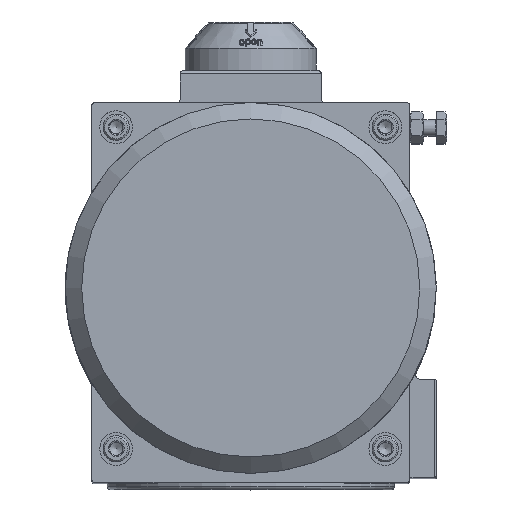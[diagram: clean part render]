
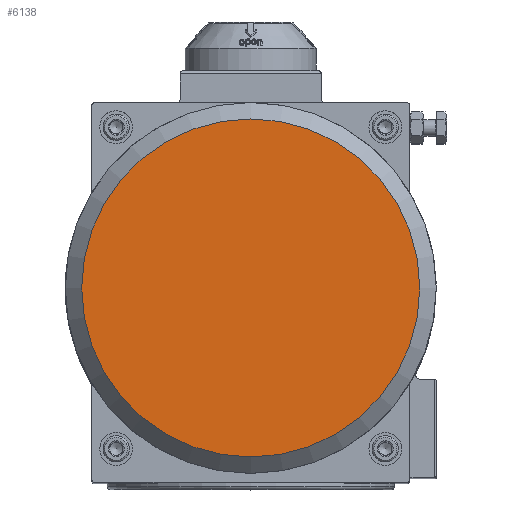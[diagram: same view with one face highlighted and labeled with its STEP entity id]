
A CAD part, top view. The second image highlights one B-rep face of the part: STEP entity #6138.
In plain terms, the highlighted planar face has unit normal (0, 0, 1).
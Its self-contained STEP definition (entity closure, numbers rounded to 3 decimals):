
#6138=ADVANCED_FACE('',(#13647),#13649,.T.);
#13647=FACE_BOUND('',#13648,.T.);
#13648=EDGE_LOOP('',(#20598));
#13649=PLANE('',#13650);
#13650=AXIS2_PLACEMENT_3D('',#13651,#13652,#13653);
#13651=CARTESIAN_POINT('',(0.,0.,266.));
#13652=DIRECTION('',(0.,0.,1.));
#13653=DIRECTION('',(1.,0.,0.));
#20598=ORIENTED_EDGE('',*,*,#23934,.T.);
#23934=EDGE_CURVE('',#27636,#27636,#27637,.T.);
#27636=VERTEX_POINT('',#50400);
#27637=CIRCLE('',#50401,103.);
#50400=CARTESIAN_POINT('',(103.,0.,266.));
#50401=AXIS2_PLACEMENT_3D('',#50402,#50403,#50404);
#50402=CARTESIAN_POINT('',(0.,0.,266.));
#50403=DIRECTION('',(0.,0.,1.));
#50404=DIRECTION('',(1.,0.,0.));
